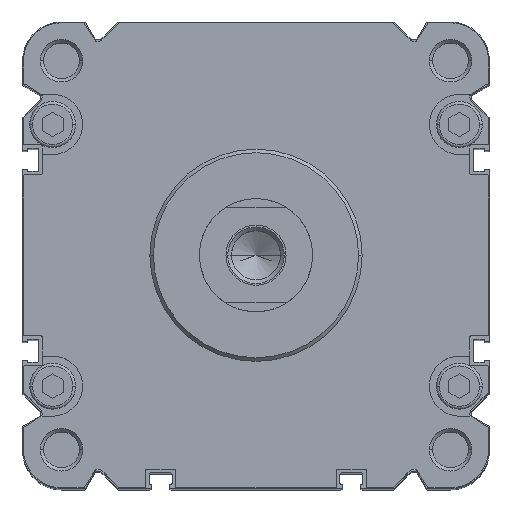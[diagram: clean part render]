
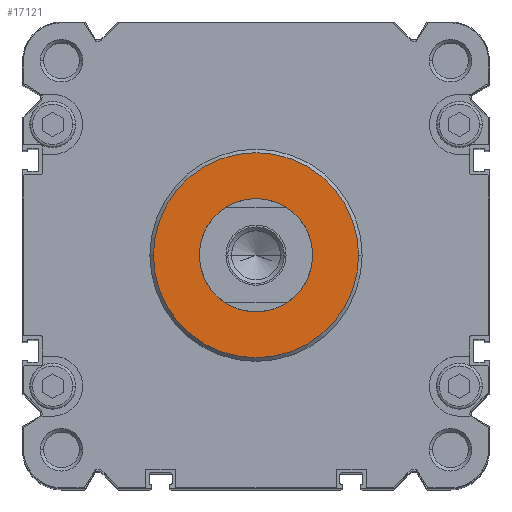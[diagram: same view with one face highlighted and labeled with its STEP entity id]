
A CAD part, top view. The second image highlights one B-rep face of the part: STEP entity #17121.
In plain terms, the highlighted planar face has unit normal (0, 0, 1).
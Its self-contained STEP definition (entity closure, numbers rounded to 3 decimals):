
#510 = EDGE_CURVE ( 'NONE', #11778, #10749, #3171, .T. ) ;
#1032 = ORIENTED_EDGE ( 'NONE', *, *, #17959, .F. ) ;
#1053 = ORIENTED_EDGE ( 'NONE', *, *, #13225, .T. ) ;
#1063 = DIRECTION ( 'NONE',  ( 1., 0., 0. ) ) ;
#1435 = CARTESIAN_POINT ( 'NONE',  ( 0., -29., 4. ) ) ;
#2717 = CARTESIAN_POINT ( 'NONE',  ( 16., 0., 4. ) ) ;
#3171 = CIRCLE ( 'NONE', #9782, 29. ) ;
#3238 = PLANE ( 'NONE',  #5748 ) ;
#4249 = DIRECTION ( 'NONE',  ( 0., 0., 1. ) ) ;
#4739 = CARTESIAN_POINT ( 'NONE',  ( -29., 0., 4. ) ) ;
#5748 = AXIS2_PLACEMENT_3D ( 'NONE', #1435, #4249, #5846 ) ;
#5846 = DIRECTION ( 'NONE',  ( -1., 0., 0. ) ) ;
#6708 = CARTESIAN_POINT ( 'NONE',  ( 29., 0., 4. ) ) ;
#6714 = EDGE_LOOP ( 'NONE', ( #1053, #8135 ) ) ;
#7420 = EDGE_CURVE ( 'NONE', #19996, #20120, #18987, .T. ) ;
#7840 = FACE_OUTER_BOUND ( 'NONE', #10849, .T. ) ;
#8135 = ORIENTED_EDGE ( 'NONE', *, *, #7420, .T. ) ;
#8480 = DIRECTION ( 'NONE',  ( 1., 0., 0. ) ) ;
#9173 = CARTESIAN_POINT ( 'NONE',  ( 0., 0., 4. ) ) ;
#9603 = CARTESIAN_POINT ( 'NONE',  ( 0., 0., 4. ) ) ;
#9782 = AXIS2_PLACEMENT_3D ( 'NONE', #11901, #18307, #13296 ) ;
#10209 = CIRCLE ( 'NONE', #18740, 29. ) ;
#10749 = VERTEX_POINT ( 'NONE', #4739 ) ;
#10849 = EDGE_LOOP ( 'NONE', ( #19271, #1032 ) ) ;
#10985 = DIRECTION ( 'NONE',  ( 0., 0., -1. ) ) ;
#10991 = DIRECTION ( 'NONE',  ( 1., 0., 0. ) ) ;
#11778 = VERTEX_POINT ( 'NONE', #6708 ) ;
#11895 = DIRECTION ( 'NONE',  ( 0., 0., -1. ) ) ;
#11901 = CARTESIAN_POINT ( 'NONE',  ( 0., 0., 4. ) ) ;
#12505 = AXIS2_PLACEMENT_3D ( 'NONE', #20016, #11895, #8480 ) ;
#13225 = EDGE_CURVE ( 'NONE', #20120, #19996, #18120, .T. ) ;
#13296 = DIRECTION ( 'NONE',  ( 1., 0., 0. ) ) ;
#15545 = CARTESIAN_POINT ( 'NONE',  ( -16., 0., 4. ) ) ;
#16404 = AXIS2_PLACEMENT_3D ( 'NONE', #9173, #10985, #1063 ) ;
#17121 = ADVANCED_FACE ( 'NONE', ( #7840, #17766 ), #3238, .T. ) ;
#17766 = FACE_BOUND ( 'NONE', #6714, .T. ) ;
#17959 = EDGE_CURVE ( 'NONE', #10749, #11778, #10209, .T. ) ;
#18120 = CIRCLE ( 'NONE', #16404, 16. ) ;
#18307 = DIRECTION ( 'NONE',  ( 0., 0., -1. ) ) ;
#18740 = AXIS2_PLACEMENT_3D ( 'NONE', #9603, #20724, #10991 ) ;
#18987 = CIRCLE ( 'NONE', #12505, 16. ) ;
#19271 = ORIENTED_EDGE ( 'NONE', *, *, #510, .F. ) ;
#19996 = VERTEX_POINT ( 'NONE', #15545 ) ;
#20016 = CARTESIAN_POINT ( 'NONE',  ( 0., 0., 4. ) ) ;
#20120 = VERTEX_POINT ( 'NONE', #2717 ) ;
#20724 = DIRECTION ( 'NONE',  ( 0., 0., -1. ) ) ;
